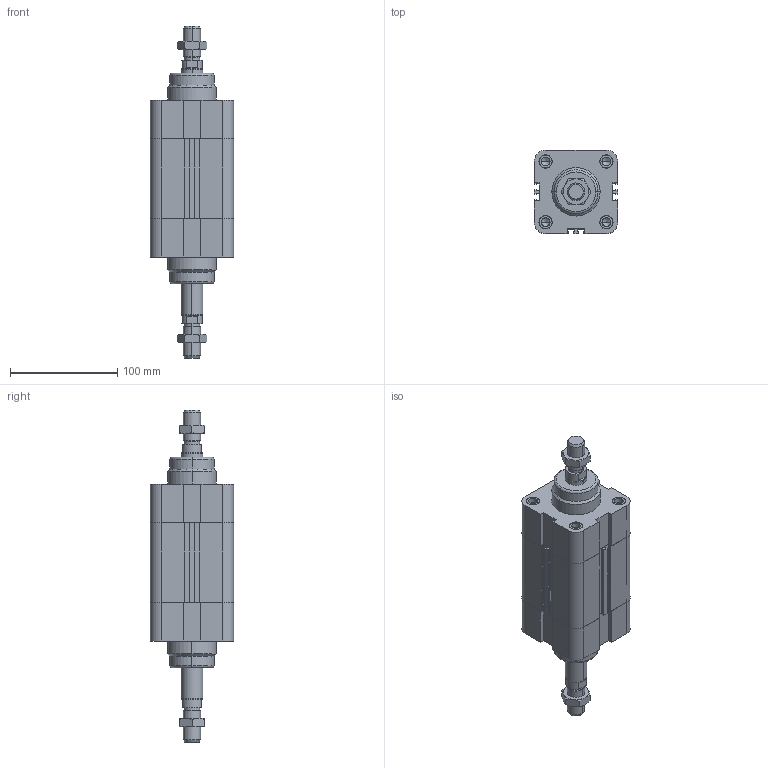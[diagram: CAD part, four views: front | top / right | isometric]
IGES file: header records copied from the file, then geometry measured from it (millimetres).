
Global section: file name: No Iges File Name specified; native system: Autodesk Inventor 2010; preprocessor: AutoDesk Inventor Iges Exporter R2010; author: rivolro1; date: 20090707.105743; units: millimetre
Bounding box: 77.5 x 77.5 x 309 mm (x, y, z)
Volume: 855343.4 mm3; surface area: 149469 mm2
Topology: 6 solids, 6 shells, 343 faces, 810 edges, 508 vertices
Faces by surface type: plane 137, bspline 86, cylinder 58, cone 38, revolution 20, torus 4
